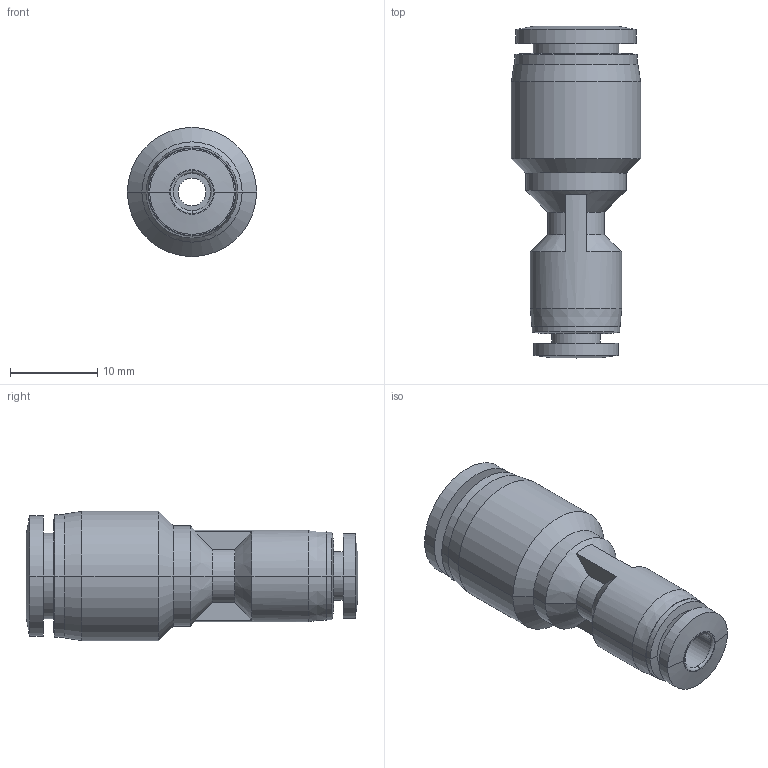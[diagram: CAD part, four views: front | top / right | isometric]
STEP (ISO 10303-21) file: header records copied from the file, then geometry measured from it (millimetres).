
FILE_DESCRIPTION (( 'STEP AP203' ), '1' );
FILE_NAME ('FRH08-04.STEP', '2020-05-12T15:00:47', ( '' ), ( '' ), 'SwSTEP 2.0', 'SolidWorks 2019', '' );
FILE_SCHEMA (( 'CONFIG_CONTROL_DESIGN' ));
Length unit declared in the file: millimetre
Products named in the file (1): FRH08-04
Bounding box: 14.8 x 38.05 x 14.8 mm (x, y, z)
Volume: 2937.4 mm3; surface area: 2637.1 mm2
Topology: 1 solids, 1 shells, 64 faces, 141 edges, 87 vertices
Faces by surface type: cylinder 27, cone 19, plane 12, torus 4, bspline 2
Entity records: 1853 total; most frequent: DIRECTION 342, CARTESIAN_POINT 315, ORIENTED_EDGE 282, AXIS2_PLACEMENT_3D 146, EDGE_CURVE 141, VERTEX_POINT 87, CIRCLE 83, EDGE_LOOP 74
